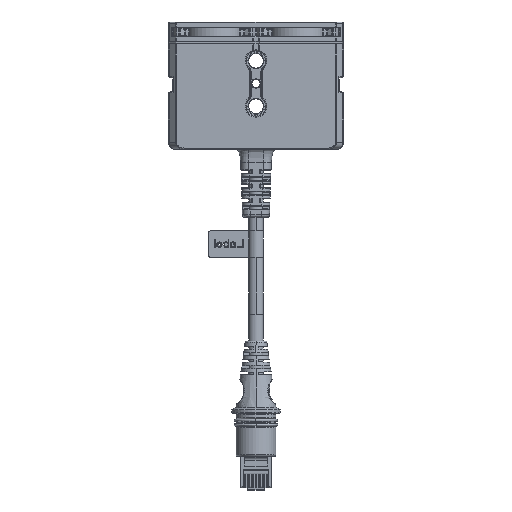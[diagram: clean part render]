
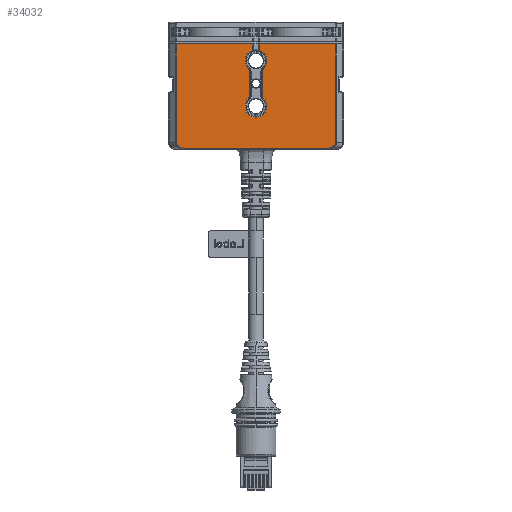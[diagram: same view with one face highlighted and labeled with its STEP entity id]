
A CAD part, front view. The second image highlights one B-rep face of the part: STEP entity #34032.
In plain terms, the highlighted planar face has unit normal (0, -1, 0).
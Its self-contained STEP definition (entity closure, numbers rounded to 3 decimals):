
#9762=DIRECTION('',(-1.,0.,0.));
#9763=VECTOR('',#9762,28.503);
#9764=CARTESIAN_POINT('',(29.734,0.,13.301));
#9765=LINE('',#9764,#9763);
#9766=DIRECTION('',(0.,0.,-1.));
#9767=VECTOR('',#9766,36.8);
#9768=CARTESIAN_POINT('',(29.734,0.,13.301));
#9769=LINE('',#9768,#9767);
#9770=CARTESIAN_POINT('',(29.734,0.,-23.499));
#9771=CARTESIAN_POINT('',(29.734,0.,-23.596));
#9772=CARTESIAN_POINT('',(29.716,0.,-23.79));
#9773=CARTESIAN_POINT('',(29.626,0.,-24.088));
#9774=CARTESIAN_POINT('',(29.468,0.,-24.388));
#9775=CARTESIAN_POINT('',(29.237,0.,-24.678));
#9776=CARTESIAN_POINT('',(28.949,0.,-24.933));
#9777=CARTESIAN_POINT('',(28.641,0.,-25.135));
#9778=CARTESIAN_POINT('',(28.336,0.,-25.287));
#9779=CARTESIAN_POINT('',(28.046,0.,-25.398));
#9780=CARTESIAN_POINT('',(27.772,0.,-25.478));
#9781=CARTESIAN_POINT('',(27.521,0.,-25.532));
#9782=CARTESIAN_POINT('',(27.288,0.,-25.568));
#9783=CARTESIAN_POINT('',(27.046,0.,-25.592));
#9784=CARTESIAN_POINT('',(26.861,0.,-25.599));
#9785=CARTESIAN_POINT('',(26.765,0.,-25.599));
#9787=DIRECTION('',(-1.,0.,0.));
#9788=VECTOR('',#9787,53.529);
#9789=CARTESIAN_POINT('',(26.765,0.,-25.599));
#9790=LINE('',#9789,#9788);
#9791=CARTESIAN_POINT('',(-26.765,0.,-25.599));
#9792=CARTESIAN_POINT('',(-26.839,0.,-25.599));
#9793=CARTESIAN_POINT('',(-26.995,0.,-25.595));
#9794=CARTESIAN_POINT('',(-27.242,0.,-25.574));
#9795=CARTESIAN_POINT('',(-27.522,0.,-25.533));
#9796=CARTESIAN_POINT('',(-27.827,0.,-25.465));
#9797=CARTESIAN_POINT('',(-28.161,0.,-25.359));
#9798=CARTESIAN_POINT('',(-28.519,0.,-25.203));
#9799=CARTESIAN_POINT('',(-28.874,0.,-24.99));
#9800=CARTESIAN_POINT('',(-29.189,0.,-24.727));
#9801=CARTESIAN_POINT('',(-29.43,0.,-24.444));
#9802=CARTESIAN_POINT('',(-29.606,0.,-24.139));
#9803=CARTESIAN_POINT('',(-29.713,0.,-23.814));
#9804=CARTESIAN_POINT('',(-29.734,0.,-23.604));
#9805=CARTESIAN_POINT('',(-29.734,0.,-23.499));
#9807=DIRECTION('',(0.,0.,1.));
#9808=VECTOR('',#9807,36.8);
#9809=CARTESIAN_POINT('',(-29.734,0.,-23.499));
#9810=LINE('',#9809,#9808);
#9811=DIRECTION('',(-1.,0.,0.));
#9812=VECTOR('',#9811,28.503);
#9813=CARTESIAN_POINT('',(-1.231,0.,13.301));
#9814=LINE('',#9813,#9812);
#9815=DIRECTION('',(0.,0.,1.));
#9816=VECTOR('',#9815,2.37);
#9817=CARTESIAN_POINT('',(-1.231,0.,
10.931));
#9818=LINE('',#9817,#9816);
#9819=CARTESIAN_POINT('',(0.,0.,7.001));
#9820=DIRECTION('',(0.,1.,0.));
#9821=DIRECTION('',(-0.704,0.,-0.71));
#9822=AXIS2_PLACEMENT_3D('',#9819,#9820,#9821);
#9824=CARTESIAN_POINT('',(-2.368,0.,2.8));
#9825=CARTESIAN_POINT('',(-2.368,0.,2.918));
#9826=CARTESIAN_POINT('',(-2.391,0.,3.151));
#9827=CARTESIAN_POINT('',(-2.496,0.,3.496));
#9828=CARTESIAN_POINT('',(-2.667,0.,3.814));
#9829=CARTESIAN_POINT('',(-2.817,0.,3.994));
#9830=CARTESIAN_POINT('',(-2.901,0.,4.077));
#9832=DIRECTION('',(0.,0.,1.));
#9833=VECTOR('',#9832,8.597);
#9834=CARTESIAN_POINT('',(-2.368,0.,-5.798));
#9835=LINE('',#9834,#9833);
#9836=CARTESIAN_POINT('',(-2.901,0.,-7.075));
#9837=CARTESIAN_POINT('',(-2.819,0.,-6.994));
#9838=CARTESIAN_POINT('',(-2.672,0.,-6.818));
#9839=CARTESIAN_POINT('',(-2.498,0.,-6.501));
#9840=CARTESIAN_POINT('',(-2.392,0.,-6.152));
#9841=CARTESIAN_POINT('',(-2.368,0.,-5.917));
#9842=CARTESIAN_POINT('',(-2.368,0.,-5.798));
#9844=CARTESIAN_POINT('',(0.,0.,-9.999));
#9845=DIRECTION('',(0.,1.,0.));
#9846=DIRECTION('',(0.704,0.,0.71));
#9847=AXIS2_PLACEMENT_3D('',#9844,#9845,#9846);
#9849=CARTESIAN_POINT('',(2.368,0.,-5.798));
#9850=CARTESIAN_POINT('',(2.368,0.,-5.916));
#9851=CARTESIAN_POINT('',(2.391,0.,-6.149));
#9852=CARTESIAN_POINT('',(2.496,0.,-6.494));
#9853=CARTESIAN_POINT('',(2.667,0.,-6.811));
#9854=CARTESIAN_POINT('',(2.817,0.,-6.992));
#9855=CARTESIAN_POINT('',(2.901,0.,-7.075));
#9857=DIRECTION('',(0.,0.,-1.));
#9858=VECTOR('',#9857,8.597);
#9859=CARTESIAN_POINT('',(2.368,0.,2.8));
#9860=LINE('',#9859,#9858);
#9861=CARTESIAN_POINT('',(2.901,0.,4.077));
#9862=CARTESIAN_POINT('',(2.819,0.,3.996));
#9863=CARTESIAN_POINT('',(2.672,0.,3.821));
#9864=CARTESIAN_POINT('',(2.498,0.,3.503));
#9865=CARTESIAN_POINT('',(2.392,0.,3.154));
#9866=CARTESIAN_POINT('',(2.368,0.,2.919));
#9867=CARTESIAN_POINT('',(2.368,0.,2.8));
#9869=CARTESIAN_POINT('',(0.,0.,7.001));
#9870=DIRECTION('',(0.,1.,0.));
#9871=DIRECTION('',(0.299,0.,0.954));
#9872=AXIS2_PLACEMENT_3D('',#9869,#9870,#9871);
#9874=DIRECTION('',(0.,0.,-1.));
#9875=VECTOR('',#9874,2.37);
#9876=CARTESIAN_POINT('',(1.231,0.,13.301));
#9877=LINE('',#9876,#9875);
#15949=CARTESIAN_POINT('',(29.734,0.,13.301));
#15950=CARTESIAN_POINT('',(1.231,0.,13.301));
#15951=VERTEX_POINT('',#15949);
#15952=VERTEX_POINT('',#15950);
#15957=CARTESIAN_POINT('',(-29.734,0.,13.301));
#15959=VERTEX_POINT('',#15957);
#15973=CARTESIAN_POINT('',(-29.734,0.,-23.499));
#15974=VERTEX_POINT('',#15973);
#15977=CARTESIAN_POINT('',(26.765,0.,-25.599));
#15978=CARTESIAN_POINT('',(-26.765,0.,-25.599));
#15979=VERTEX_POINT('',#15977);
#15980=VERTEX_POINT('',#15978);
#16090=VERTEX_POINT('',#9770);
#16145=CARTESIAN_POINT('',(2.9,0.,
-7.075));
#16146=CARTESIAN_POINT('',(-2.901,0.,
-7.075));
#16147=VERTEX_POINT('',#16145);
#16148=VERTEX_POINT('',#16146);
#16149=CARTESIAN_POINT('',(1.231,0.,
10.931));
#16150=CARTESIAN_POINT('',(2.901,0.,
4.077));
#16151=VERTEX_POINT('',#16149);
#16152=VERTEX_POINT('',#16150);
#16162=CARTESIAN_POINT('',(2.368,0.,2.8));
#16163=CARTESIAN_POINT('',(2.368,0.,-5.798));
#16164=VERTEX_POINT('',#16162);
#16165=VERTEX_POINT('',#16163);
#16187=CARTESIAN_POINT('',(-2.368,0.,-5.798));
#16188=CARTESIAN_POINT('',(-2.368,0.,2.8));
#16189=VERTEX_POINT('',#16187);
#16190=VERTEX_POINT('',#16188);
#16193=CARTESIAN_POINT('',(-2.901,0.,
4.077));
#16194=CARTESIAN_POINT('',(-1.231,0.,
10.931));
#16195=VERTEX_POINT('',#16193);
#16196=VERTEX_POINT('',#16194);
#16241=CARTESIAN_POINT('',(-1.231,0.,13.301));
#16242=VERTEX_POINT('',#16241);
#33990=CARTESIAN_POINT('',(0.,0.,-5.999));
#33991=DIRECTION('',(0.,1.,0.));
#33992=DIRECTION('',(1.,0.,0.));
#33993=AXIS2_PLACEMENT_3D('',#33990,#33991,#33992);
#33994=PLANE('',#33993);
#33996=ORIENTED_EDGE('',*,*,#33995,.F.);
#33998=ORIENTED_EDGE('',*,*,#33997,.T.);
#34000=ORIENTED_EDGE('',*,*,#33999,.T.);
#34001=ORIENTED_EDGE('',*,*,#33980,.T.);
#34003=ORIENTED_EDGE('',*,*,#34002,.T.);
#34005=ORIENTED_EDGE('',*,*,#34004,.T.);
#34007=ORIENTED_EDGE('',*,*,#34006,.F.);
#34009=ORIENTED_EDGE('',*,*,#34008,.F.);
#34011=ORIENTED_EDGE('',*,*,#34010,.F.);
#34013=ORIENTED_EDGE('',*,*,#34012,.F.);
#34015=ORIENTED_EDGE('',*,*,#34014,.F.);
#34017=ORIENTED_EDGE('',*,*,#34016,.F.);
#34019=ORIENTED_EDGE('',*,*,#34018,.F.);
#34021=ORIENTED_EDGE('',*,*,#34020,.F.);
#34023=ORIENTED_EDGE('',*,*,#34022,.F.);
#34025=ORIENTED_EDGE('',*,*,#34024,.F.);
#34027=ORIENTED_EDGE('',*,*,#34026,.F.);
#34029=ORIENTED_EDGE('',*,*,#34028,.F.);
#34030=EDGE_LOOP('',(#33996,#33998,#34000,#34001,#34003,#34005,#34007,#34009,
#34011,#34013,#34015,#34017,#34019,#34021,#34023,#34025,#34027,#34029));
#34031=FACE_OUTER_BOUND('',#34030,.F.);
#9786=B_SPLINE_CURVE_WITH_KNOTS('',3,(#9770,#9771,#9772,#9773,#9774,#9775,#9776,
#9777,#9778,#9779,#9780,#9781,#9782,#9783,#9784,#9785),.UNSPECIFIED.,.F.,.F.,(4,
1,1,1,1,1,1,1,1,1,1,1,1,4),(0.,0.077,0.154,
0.231,0.308,0.385,0.462,
0.538,0.615,0.692,0.769,
0.846,0.923,1.),.UNSPECIFIED.);
#9806=B_SPLINE_CURVE_WITH_KNOTS('',3,(#9791,#9792,#9793,#9794,#9795,#9796,#9797,
#9798,#9799,#9800,#9801,#9802,#9803,#9804,#9805),.UNSPECIFIED.,.F.,.F.,(4,1,1,1,
1,1,1,1,1,1,1,1,4),(0.,0.083,0.167,0.25,
0.333,0.417,0.5,0.583,0.667,
0.75,0.833,0.917,1.),.UNSPECIFIED.);
#9823=CIRCLE('',#9822,4.118);
#9831=B_SPLINE_CURVE_WITH_KNOTS('',3,(#9824,#9825,#9826,#9827,#9828,#9829,
#9830),.UNSPECIFIED.,.F.,.F.,(4,1,1,1,4),(0.,0.25,0.5,0.75,1.),
.UNSPECIFIED.);
#9843=B_SPLINE_CURVE_WITH_KNOTS('',3,(#9836,#9837,#9838,#9839,#9840,#9841,
#9842),.UNSPECIFIED.,.F.,.F.,(4,1,1,1,4),(0.,0.25,0.5,0.75,1.),
.UNSPECIFIED.);
#9848=CIRCLE('',#9847,4.118);
#9856=B_SPLINE_CURVE_WITH_KNOTS('',3,(#9849,#9850,#9851,#9852,#9853,#9854,
#9855),.UNSPECIFIED.,.F.,.F.,(4,1,1,1,4),(0.,0.25,0.5,0.75,1.),
.UNSPECIFIED.);
#9868=B_SPLINE_CURVE_WITH_KNOTS('',3,(#9861,#9862,#9863,#9864,#9865,#9866,
#9867),.UNSPECIFIED.,.F.,.F.,(4,1,1,1,4),(0.,0.25,0.5,0.75,1.),
.UNSPECIFIED.);
#9873=CIRCLE('',#9872,4.118);
#33980=EDGE_CURVE('',#15979,#15980,#9790,.T.);
#33995=EDGE_CURVE('',#15951,#15952,#9765,.T.);
#33997=EDGE_CURVE('',#15951,#16090,#9769,.T.);
#33999=EDGE_CURVE('',#16090,#15979,#9786,.T.);
#34002=EDGE_CURVE('',#15980,#15974,#9806,.T.);
#34004=EDGE_CURVE('',#15974,#15959,#9810,.T.);
#34006=EDGE_CURVE('',#16242,#15959,#9814,.T.);
#34008=EDGE_CURVE('',#16196,#16242,#9818,.T.);
#34010=EDGE_CURVE('',#16195,#16196,#9823,.T.);
#34012=EDGE_CURVE('',#16190,#16195,#9831,.T.);
#34014=EDGE_CURVE('',#16189,#16190,#9835,.T.);
#34016=EDGE_CURVE('',#16148,#16189,#9843,.T.);
#34018=EDGE_CURVE('',#16147,#16148,#9848,.T.);
#34020=EDGE_CURVE('',#16165,#16147,#9856,.T.);
#34022=EDGE_CURVE('',#16164,#16165,#9860,.T.);
#34024=EDGE_CURVE('',#16152,#16164,#9868,.T.);
#34026=EDGE_CURVE('',#16151,#16152,#9873,.T.);
#34028=EDGE_CURVE('',#15952,#16151,#9877,.T.);
#34032=ADVANCED_FACE('',(#34031),#33994,.F.);
